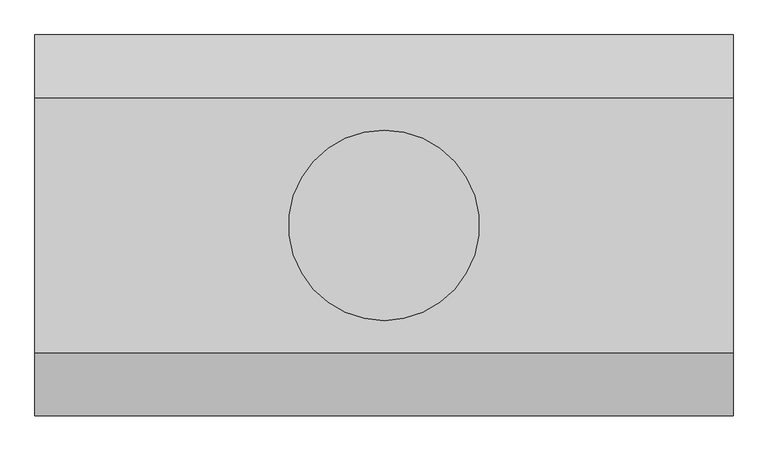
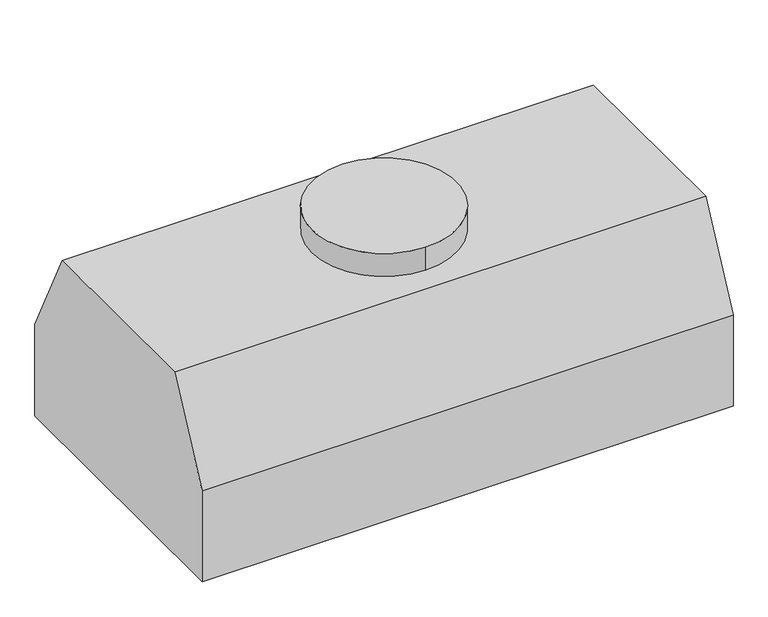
"""IFC4 building model written with IfcOpenShell, lengths in millimetres: air terminal geometry, BL_ЗонтВытяжной_Островной_ЗВО : BL_ЗонтВытяжной_Островной_ЗВО."""

from ifc_helpers import new_model, si_unit, point, frame, origin, origin_2d, place, context, project, spatial, circle_curve, trimmed, segment, composite_curve, outline, extrude, faceted_brep, source, transform, mapped, element, save


def air_terminal_bbb7754d(model_context):
    return source(origin(), model_context, "Body", "SolidModel", [
        extrude(outline(composite_curve([segment(trimmed(circle_curve(origin_2d(), 150.0), [point((0.0, -150.0))], [point((0.0, 150.0))], False, "CARTESIAN"), True, "CONTINUOUS"), segment(trimmed(circle_curve(origin_2d(), 150.0), [point((0.0, 150.0))], [point((0.0, -150.0))], False, "CARTESIAN"), True, "CONTINUOUS")], self_intersect=False)), frame((0.0, 0.0, 400.0), z_axis=(0.0, 0.0, 1.0), x_axis=(1.0, 0.0, 0.0)), (0.0, 0.0, 1.0), 50.0),
        faceted_brep([(550.0, 300.0, 0.0), (550.0, 300.0, 200.0), (550.0, 201.0, 400.0), (550.0, -201.0, 400.0), (550.0, -300.0, 200.0), (550.0, -300.0, 0.0), (-550.0, 300.0, 0.0), (-550.0, -300.0, 0.0), (-550.0, -300.0, 200.0), (-550.0, -201.0, 400.0), (-550.0, 201.0, 400.0), (-550.0, 300.0, 200.0), (520.0, -280.0, 0.0), (520.0, -25.0, 0.0), (-520.0, -25.0, 0.0), (-520.0, -280.0, 0.0), (520.0, 25.0, 0.0), (520.0, 280.0, 0.0), (-520.0, 280.0, 0.0), (-520.0, 25.0, 0.0), (520.0, -280.0, 200.0), (520.0, -181.0, 380.0), (520.0, 181.0, 380.0), (520.0, 280.0, 200.0), (-520.0, 280.0, 200.0), (-520.0, 181.0, 380.0), (-520.0, -181.0, 380.0), (-520.0, -280.0, 200.0)], [[[0, 1, 2, 3, 4, 5]], [[6, 7, 8, 9, 10, 11]], [[1, 0, 6, 11]], [[2, 1, 11, 10]], [[3, 2, 10, 9]], [[4, 3, 9, 8]], [[5, 4, 8, 7]], [[0, 5, 7, 6], [12, 13, 14, 15], [16, 17, 18, 19]], [[12, 20, 21, 13]], [[16, 22, 23, 17]], [[18, 24, 25, 19]], [[14, 26, 27, 15]], [[17, 23, 24, 18]], [[20, 12, 15, 27]], [[23, 22, 25, 24]], [[22, 16, 19, 25]], [[13, 21, 26, 14]], [[21, 20, 27, 26]]]),
    ])


if __name__ == "__main__":
    model = new_model("IFC4")
    model_context = context("Model", 3, world=origin())
    ifc_project = project(units=[si_unit("LENGTHUNIT", "METRE", prefix="MILLI")], contexts=[model_context])
    site = spatial("IfcSite", under=ifc_project)
    building = spatial("IfcBuilding", under=site)
    placement = place(None, origin())
    air_terminal_shape = air_terminal_bbb7754d(model_context)
    element("IfcAirTerminal", 1, ObjectType="BL_ЗонтВытяжной_Островной_ЗВО : BL_ЗонтВытяжной_Островной_ЗВО", at=placement, inside=building, context=model_context, shape_type="MappedRepresentation", body=[
        mapped(air_terminal_shape, transform((0.0, 0.0, 0.0), x_axis=(1.0, 0.0, 0.0), y_axis=(0.0, 1.0, 0.0), z_axis=(0.0, 0.0, 1.0))),
    ])
    save(model, "model.ifc")
